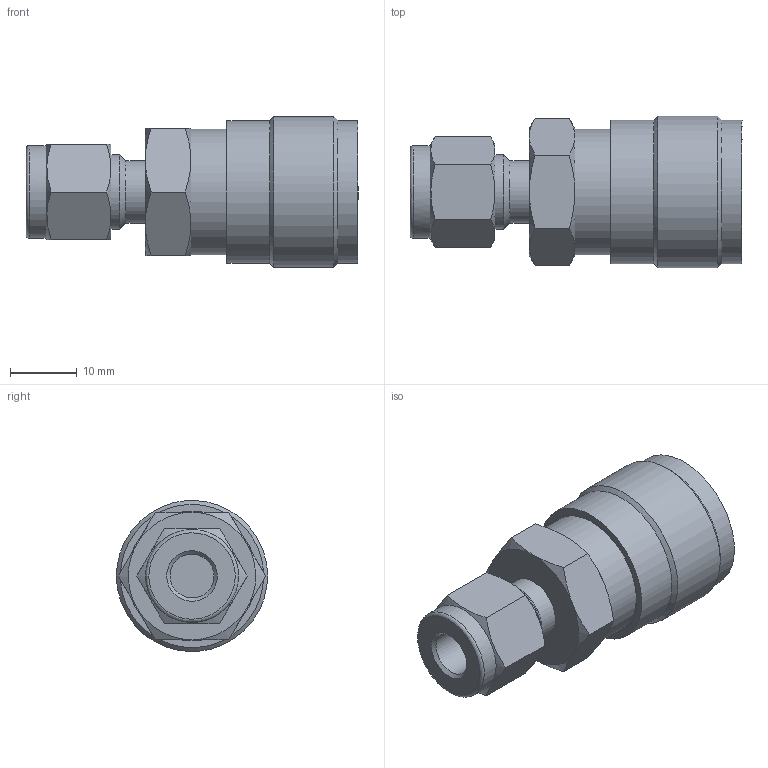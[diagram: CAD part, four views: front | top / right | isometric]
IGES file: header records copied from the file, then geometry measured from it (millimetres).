
Global section: file name: SFQC2B-S4; native system: Autodesk Inventor 2016; preprocessor: unknown; author: 이승민,,11,0; organization: 20170208.110817; date: 20170208.202847; units: millimetre
Bounding box: 49.64 x 22.6 x 22.58 mm (x, y, z)
Volume: 12006 mm3; surface area: 4830.8 mm2
Topology: 1 solids, 1 shells, 66 faces, 167 edges, 112 vertices
Faces by surface type: bspline 66
